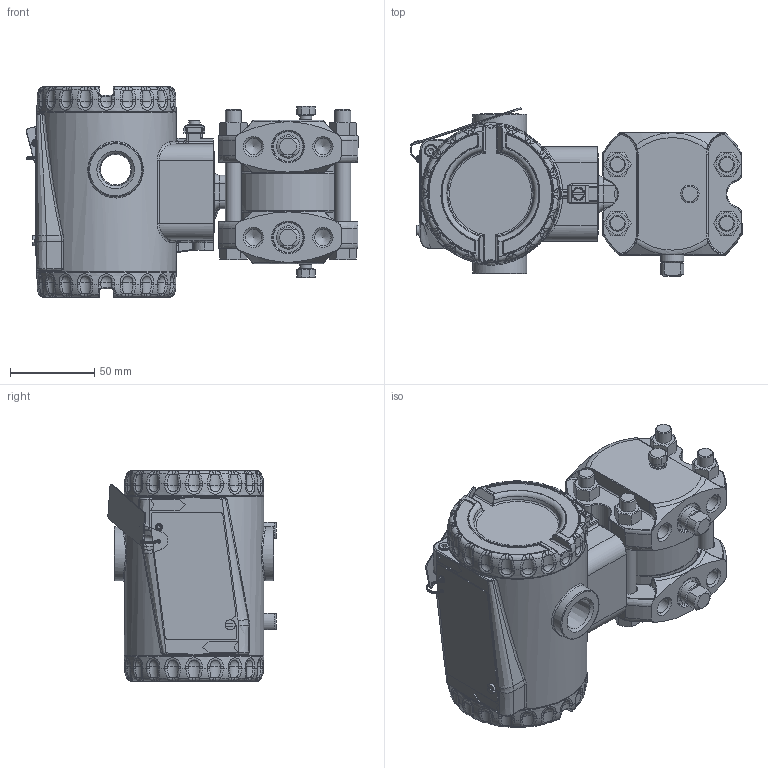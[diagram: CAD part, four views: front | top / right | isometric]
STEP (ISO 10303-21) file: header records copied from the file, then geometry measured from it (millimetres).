
FILE_DESCRIPTION(/* description */ (''),/* implementation_level */ '2;1');
FILE_NAME(/* name */ 'F:\Area\Desenvolvimento_2\Projects\Sensor\projetos\LD400-3d\dimensionais 3D clientes\LD400H0-3 1-4NPT monel purga abaixo.stp',/* time_stamp */ '2023-02-02T11:16:33-03:00',/* author */ ('inventor02'),/* organization */ (''),/* preprocessor_version */ 'ST-DEVELOPER v17',/* originating_system */ 'Autodesk Inventor 2019',/* authorisation */ '');
FILE_SCHEMA (('CONFIG_CONTROL_DESIGN'));
Products named in the file (29): LD400H0-3 1-4NPT monel purga abaixo; Carcaça 400 com tampas e plaqueta sem letras; 101-D-0845-05 carcaça LD400 sem letras; 101-B-3614-03-tampa 400 sem letras; Tampa visor 400 montada sem letras; 101-B-3612-05 tampa visor 400 sem letras; 101-A-6107; oring 2034; 00034775-0; WHW_250; DIN 915 - M6 x 10; Chapa aterramento externo; 201-A-1771-02 inserto terra recartilhado; AS 1969 - ST4,2; ISO 1207 - M4 x 8; ANSI B18.3.1M - M4x0,7 x 8; Subconjunto plaqueta 400; plaqueta 400 em branco; Parafuso da Plaqueta; Rebite da Plaqueta; 096-A-0169-03; 101-A-0502-01; diferencial FX0-3 monel purga abaixo; involucro fx0-3 apos a usinagem final; bujao 1-4NPT; 081-C-0500-10 monel barra 7-16 purga M8; Sangria; Porca 3-8 x 16 UNC; Paraf. 3-8 x 16 UNC
Assembly tree (38 placements, depth 4):
  LD400H0-3 1-4NPT monel purga abaixo
    Carcaça 400 com tampas e plaqueta sem letras
      101-D-0845-05 carcaça LD400 sem letras
      101-B-3614-03-tampa 400 sem letras
      Tampa visor 400 montada sem letras
        101-B-3612-05 tampa visor 400 sem letras
        101-A-6107
        oring 2034
        00034775-0
        WHW_250
      DIN 915 - M6 x 10
      Chapa aterramento externo
      201-A-1771-02 inserto terra recartilhado
      AS 1969 - ST4,2
      ISO 1207 - M4 x 8
      ANSI B18.3.1M - M4x0,7 x 8  x2
      Subconjunto plaqueta 400
        plaqueta 400 em branco
        Parafuso da Plaqueta
        Rebite da Plaqueta
        096-A-0169-03
        101-A-0502-01
    diferencial FX0-3 monel purga abaixo
      involucro fx0-3 apos a usinagem final
      bujao 1-4NPT  x2
      081-C-0500-10 monel barra 7-16 purga M8  x2
      Sangria  x2
      Porca 3-8 x 16 UNC  x4
      Paraf. 3-8 x 16 UNC  x4
Bounding box: 197.25 x 99.89 x 125 mm (x, y, z)
Volume: 664577.1 mm3; surface area: 240111.3 mm2
Topology: 34 solids, 34 shells, 2301 faces, 5675 edges, 3435 vertices
Faces by surface type: plane 611, bspline 529, cylinder 507, torus 354, cone 247, sphere 53
Full cylindrical faces by diameter (mm): 2 x2, 2.1 x1, 2.2 x1, 2.459 x3, 2.7 x1, 3 x5, 3.242 x3, 3.571 x1, 4 x4, 4.3 x2, 4.4 x1, 4.917 x1, 5 x4, 5.5 x2, 6 x2, 6.1 x2, 6.2 x1, 6.647 x2, 7 x4, 7.6 x2, 7.798 x4, 8 x2, 9.525 x4, 9.728 x8, 10.5 x8, 10.719 x4, 12 x2, 13.8 x2, 14 x1, 18.3 x2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
Entity records: 75833 total; most frequent: CARTESIAN_POINT 30516, ORIENTED_EDGE 9508, DIRECTION 9047, EDGE_CURVE 4754, AXIS2_PLACEMENT_3D 3809, VERTEX_POINT 2881, CIRCLE 2191, EDGE_LOOP 2049
